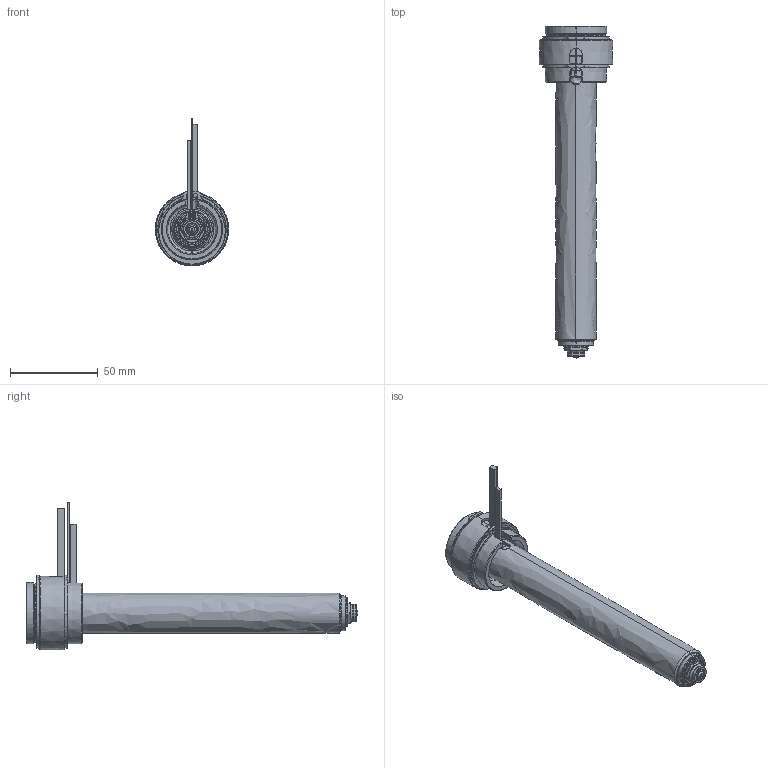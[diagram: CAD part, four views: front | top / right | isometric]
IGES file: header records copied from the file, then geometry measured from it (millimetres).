
Start section: SolidWorks IGES file using analytic representation for surfaces
Global section: file name: C:\Documents and Settings\ws-20\Desktop\TEM\UGER3554-S-A-1 [Øb-1.10  ØC-6.0].IGS; native system: SolidWorks 2012; preprocessor: SolidWorks 2012; author: ws-20; date: 120410.095505; units: millimetre
Bounding box: 42 x 189.4 x 84.4 mm (x, y, z)
Surface area: 42921.5 mm2 (no closed solid volume)
Topology: 0 solids, 0 shells, 202 faces, 3558 edges, 3558 vertices
Faces by surface type: revolution 127, bspline 75
